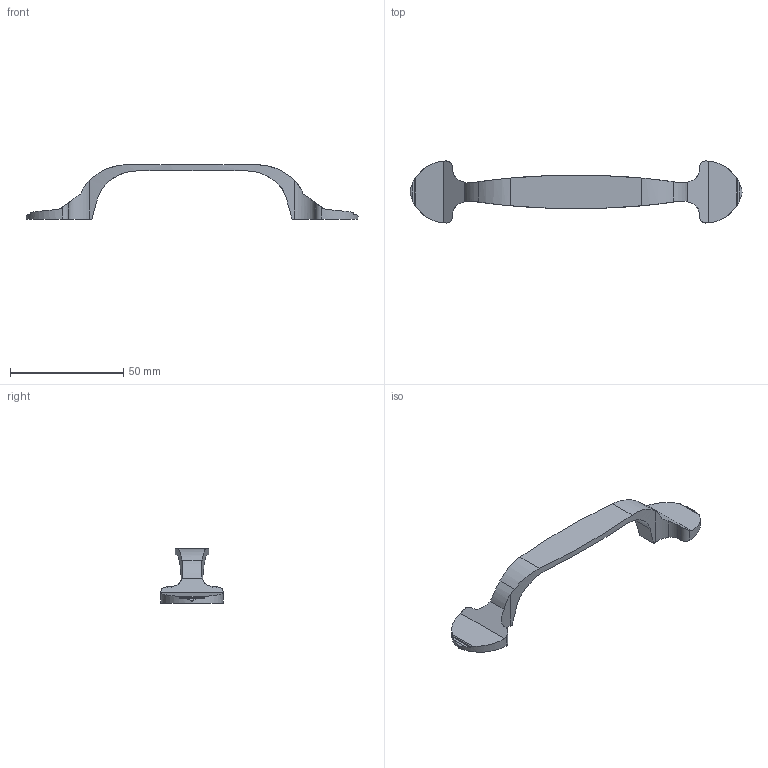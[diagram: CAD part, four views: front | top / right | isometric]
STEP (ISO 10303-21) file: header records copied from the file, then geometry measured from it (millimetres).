
FILE_DESCRIPTION( ( '' ), '1' );
FILE_NAME( 'D:/temp/hettich_stp/hettich/prodecor_handles/folk/9113439.stp', '2013-02-26T12:51:26', ( '' ), ( '' ), ' ', ' ', ' ' );
FILE_SCHEMA( ( 'automotive_design' ) );
Length unit declared in the file: millimetre
Products named in the file (1): 1
Bounding box: 146.59 x 27.39 x 24 mm (x, y, z)
Volume: 10028.3 mm3; surface area: 6679.3 mm2
Topology: 1 solids, 1 shells, 61 faces, 173 edges, 116 vertices
Faces by surface type: cylinder 41, plane 20
Entity records: 4178 total; most frequent: CARTESIAN_POINT 627, STYLED_ITEM 351, PRESENTATION_STYLE_ASSIGNMENT 351, COLOUR_RGB 351, ORIENTED_EDGE 346, DIRECTION 333, EDGE_CURVE 173, CURVE_STYLE 173
